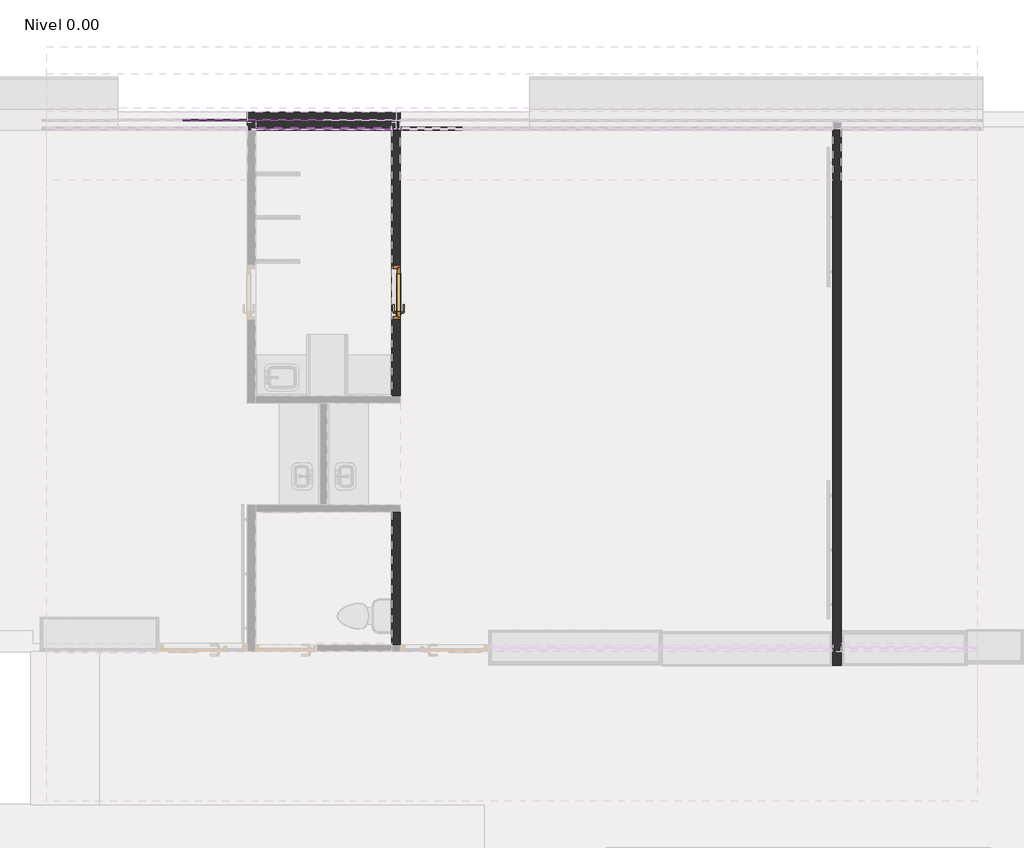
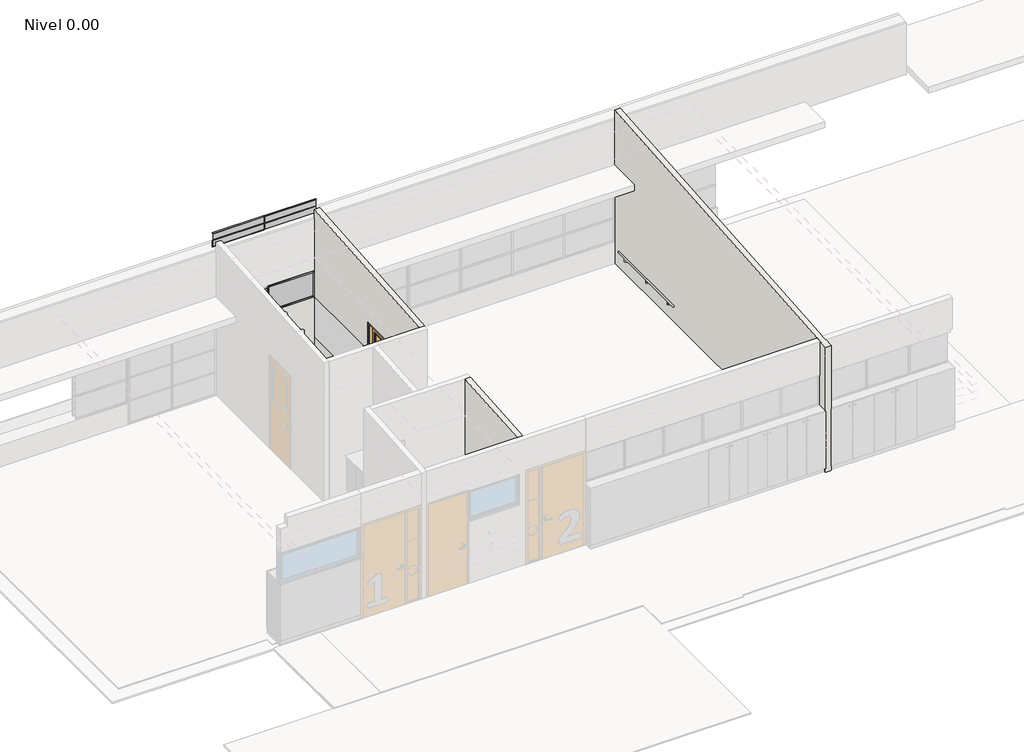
# One storey, part 15 of 27: 78 members, 44 plates, 4 walls, 1 door.
"""IFC4 building model written with IfcOpenShell, lengths in millimetres."""

from ifc_helpers import new_model, si_unit, origin, place, context, project, spatial, faceted_brep, transform, mapped, element, save
from components import puerta_c_01_c01_800x2100mm_3cbcec37, circular_mullion_1dead5a5, circular_mullion_e1cfff8a, l_corner_mullion_bdbcb013, l_corner_mullion_de296168, rectangular_mullion_4771c1cd, rectangular_mullion_62a8ddbd, rectangular_mullion_b27f267a, rectangular_mullion_f4ea7fa0, rectangular_mullion_b22e6fb3, rectangular_mullion_4732226b, rectangular_mullion_bccfeea3, system_panel_21d1b96a, system_panel_b47d8e37, system_panel_7fb71679, system_panel_d60c91ae, system_panel_glazed_caefc472

model = new_model("IFC4")

# Units and contexts
model_context = context("Model", 3, world=origin())
ifc_project = project(units=[si_unit("LENGTHUNIT", "METRE", prefix="MILLI")], contexts=[model_context])

# Site, building, storey
site = spatial("IfcSite", under=ifc_project)
building = spatial("IfcBuilding", under=site)
storey = spatial("IfcBuildingStorey", under=building, Name="Nivel 0.00", Elevation=0.0)

# Door
placement = place(None, origin())
puerta_c_01_c01_800x2100mm_shape = puerta_c_01_c01_800x2100mm_3cbcec37(model_context)
element("IfcDoor", 1, ObjectType="PUERTA_C-01 : C01_800X2100mm", at=placement, inside=storey, context=model_context, shape_type="MappedRepresentation", body=[
    mapped(puerta_c_01_c01_800x2100mm_shape, transform((-7281.9192731, 4429.1682907, 0.0), x_axis=(0.0, 1.0, 0.0), y_axis=(-1.0, 0.0, 0.0), z_axis=(0.0, 0.0, 1.0))),
])

# Members
circular_mullion_shape = circular_mullion_1dead5a5(model_context)
element("IfcMember", 2, ObjectType="Circular Mullion : ARQ_HERR_16mm", at=placement, inside=storey, context=model_context, shape_type="MappedRepresentation", body=[
    mapped(circular_mullion_shape, transform((-8338.404057, 6959.43912, 1650.0), x_axis=(0.0, 0.0, 1.0), y_axis=(0.0, -1.0, 0.0), z_axis=(1.0, 0.0, 0.0))),
])
element("IfcMember", 3, ObjectType="Circular Mullion : ARQ_HERR_16mm", at=placement, inside=storey, context=model_context, shape_type="MappedRepresentation", body=[
    mapped(circular_mullion_shape, transform((-8338.404057, 6959.43912, 1800.0), x_axis=(0.0, 0.0, 1.0), y_axis=(0.0, -1.0, 0.0), z_axis=(1.0, 0.0, 0.0))),
])
element("IfcMember", 4, ObjectType="Circular Mullion : ARQ_HERR_16mm", at=placement, inside=storey, context=model_context, shape_type="MappedRepresentation", body=[
    mapped(circular_mullion_shape, transform((-8338.404057, 6959.43912, 1950.0), x_axis=(0.0, 0.0, 1.0), y_axis=(0.0, -1.0, 0.0), z_axis=(1.0, 0.0, 0.0))),
])
element("IfcMember", 5, ObjectType="Circular Mullion : ARQ_HERR_16mm", at=placement, inside=storey, context=model_context, shape_type="MappedRepresentation", body=[
    mapped(circular_mullion_shape, transform((-8338.404057, 6959.43912, 2100.0), x_axis=(0.0, 0.0, 1.0), y_axis=(0.0, -1.0, 0.0), z_axis=(1.0, 0.0, 0.0))),
])
element("IfcMember", 6, ObjectType="Circular Mullion : ARQ_HERR_16mm", at=placement, inside=storey, context=model_context, shape_type="MappedRepresentation", body=[
    mapped(circular_mullion_shape, transform((-8338.404057, 6959.43912, 2250.0), x_axis=(0.0, 0.0, 1.0), y_axis=(0.0, -1.0, 0.0), z_axis=(1.0, 0.0, 0.0))),
])
element("IfcMember", 7, ObjectType="Circular Mullion : ARQ_HERR_16mm", at=placement, inside=storey, context=model_context, shape_type="MappedRepresentation", body=[
    mapped(circular_mullion_shape, transform((-8338.404057, 6959.43912, 2400.0), x_axis=(0.0, 0.0, 1.0), y_axis=(0.0, -1.0, 0.0), z_axis=(1.0, 0.0, 0.0))),
])
element("IfcMember", 8, ObjectType="Circular Mullion : ARQ_HERR_16mm", at=placement, inside=storey, context=model_context, shape_type="MappedRepresentation", body=[
    mapped(circular_mullion_shape, transform((-8338.404057, 6959.43912, 2550.0), x_axis=(0.0, 0.0, 1.0), y_axis=(0.0, -1.0, 0.0), z_axis=(1.0, 0.0, 0.0))),
])
element("IfcMember", 9, ObjectType="Circular Mullion : ARQ_HERR_16mm", at=placement, inside=storey, context=model_context, shape_type="MappedRepresentation", body=[
    mapped(circular_mullion_shape, transform((-8338.404057, 6959.43912, 2700.0), x_axis=(0.0, 0.0, 1.0), y_axis=(0.0, -1.0, 0.0), z_axis=(1.0, 0.0, 0.0))),
])
element("IfcMember", 10, ObjectType="Circular Mullion : ARQ_HERR_16mm", at=placement, inside=storey, context=model_context, shape_type="MappedRepresentation", body=[
    mapped(circular_mullion_shape, transform((-8338.404057, 6959.43912, 2850.0), x_axis=(0.0, 0.0, 1.0), y_axis=(0.0, -1.0, 0.0), z_axis=(1.0, 0.0, 0.0))),
])
element("IfcMember", 11, ObjectType="Circular Mullion : ARQ_HERR_16mm", at=placement, inside=storey, context=model_context, shape_type="MappedRepresentation", body=[
    mapped(circular_mullion_shape, transform((-8338.404057, 6959.43912, 3000.0), x_axis=(0.0, 0.0, 1.0), y_axis=(0.0, -1.0, 0.0), z_axis=(1.0, 0.0, 0.0))),
])
element("IfcMember", 12, ObjectType="Circular Mullion : ARQ_HERR_16mm", at=placement, inside=storey, context=model_context, shape_type="MappedRepresentation", body=[
    mapped(circular_mullion_shape, transform((-8338.404057, 6959.43912, 3150.0), x_axis=(0.0, 0.0, 1.0), y_axis=(0.0, -1.0, 0.0), z_axis=(1.0, 0.0, 0.0))),
])
element("IfcMember", 13, ObjectType="Circular Mullion : ARQ_HERR_16mm", at=placement, inside=storey, context=model_context, shape_type="MappedRepresentation", body=[
    mapped(circular_mullion_shape, transform((-8338.404057, 6959.43912, 3300.0), x_axis=(0.0, 0.0, 1.0), y_axis=(0.0, -1.0, 0.0), z_axis=(1.0, 0.0, 0.0))),
])
element("IfcMember", 14, ObjectType="Circular Mullion : ARQ_HERR_16mm", at=placement, inside=storey, context=model_context, shape_type="MappedRepresentation", body=[
    mapped(circular_mullion_shape, transform((-8338.404057, 6959.43912, 3450.0), x_axis=(0.0, 0.0, 1.0), y_axis=(0.0, -1.0, 0.0), z_axis=(1.0, 0.0, 0.0))),
])
circular_mullion_2_shape = circular_mullion_e1cfff8a(model_context)
element("IfcMember", 15, ObjectType="Circular Mullion : ARQ_HERR_16mm", at=placement, inside=storey, context=model_context, shape_type="MappedRepresentation", body=[
    mapped(circular_mullion_2_shape, transform((-9461.2388409, 6959.43912, 150.0), x_axis=(0.0, 0.0, 1.0), y_axis=(0.0, -1.0, 0.0), z_axis=(1.0, 0.0, 0.0))),
])
element("IfcMember", 16, ObjectType="Circular Mullion : ARQ_HERR_16mm", at=placement, inside=storey, context=model_context, shape_type="MappedRepresentation", body=[
    mapped(circular_mullion_2_shape, transform((-9461.2388409, 6959.43912, 300.0), x_axis=(0.0, 0.0, 1.0), y_axis=(0.0, -1.0, 0.0), z_axis=(1.0, 0.0, 0.0))),
])
element("IfcMember", 17, ObjectType="Circular Mullion : ARQ_HERR_16mm", at=placement, inside=storey, context=model_context, shape_type="MappedRepresentation", body=[
    mapped(circular_mullion_2_shape, transform((-9461.2388409, 6959.43912, 450.0), x_axis=(0.0, 0.0, 1.0), y_axis=(0.0, -1.0, 0.0), z_axis=(1.0, 0.0, 0.0))),
])
element("IfcMember", 18, ObjectType="Circular Mullion : ARQ_HERR_16mm", at=placement, inside=storey, context=model_context, shape_type="MappedRepresentation", body=[
    mapped(circular_mullion_2_shape, transform((-9461.2388409, 6959.43912, 600.0), x_axis=(0.0, 0.0, 1.0), y_axis=(0.0, -1.0, 0.0), z_axis=(1.0, 0.0, 0.0))),
])
element("IfcMember", 19, ObjectType="Circular Mullion : ARQ_HERR_16mm", at=placement, inside=storey, context=model_context, shape_type="MappedRepresentation", body=[
    mapped(circular_mullion_2_shape, transform((-9461.2388409, 6959.43912, 750.0), x_axis=(0.0, 0.0, 1.0), y_axis=(0.0, -1.0, 0.0), z_axis=(1.0, 0.0, 0.0))),
])
element("IfcMember", 20, ObjectType="Circular Mullion : ARQ_HERR_16mm", at=placement, inside=storey, context=model_context, shape_type="MappedRepresentation", body=[
    mapped(circular_mullion_2_shape, transform((-9461.2388409, 6959.43912, 900.0), x_axis=(0.0, 0.0, 1.0), y_axis=(0.0, -1.0, 0.0), z_axis=(1.0, 0.0, 0.0))),
])
element("IfcMember", 21, ObjectType="Circular Mullion : ARQ_HERR_16mm", at=placement, inside=storey, context=model_context, shape_type="MappedRepresentation", body=[
    mapped(circular_mullion_2_shape, transform((-9461.2388409, 6959.43912, 1050.0), x_axis=(0.0, 0.0, 1.0), y_axis=(0.0, -1.0, 0.0), z_axis=(1.0, 0.0, 0.0))),
])
element("IfcMember", 22, ObjectType="Circular Mullion : ARQ_HERR_16mm", at=placement, inside=storey, context=model_context, shape_type="MappedRepresentation", body=[
    mapped(circular_mullion_2_shape, transform((-9461.2388409, 6959.43912, 1200.0), x_axis=(0.0, 0.0, 1.0), y_axis=(0.0, -1.0, 0.0), z_axis=(1.0, 0.0, 0.0))),
])
element("IfcMember", 23, ObjectType="Circular Mullion : ARQ_HERR_16mm", at=placement, inside=storey, context=model_context, shape_type="MappedRepresentation", body=[
    mapped(circular_mullion_2_shape, transform((-9461.2388409, 6959.43912, 1350.0), x_axis=(0.0, 0.0, 1.0), y_axis=(0.0, -1.0, 0.0), z_axis=(1.0, 0.0, 0.0))),
])
element("IfcMember", 24, ObjectType="Circular Mullion : ARQ_HERR_16mm", at=placement, inside=storey, context=model_context, shape_type="MappedRepresentation", body=[
    mapped(circular_mullion_2_shape, transform((-9461.2388409, 6959.43912, 1500.0), x_axis=(0.0, 0.0, 1.0), y_axis=(0.0, -1.0, 0.0), z_axis=(1.0, 0.0, 0.0))),
])
element("IfcMember", 25, ObjectType="Circular Mullion : ARQ_HERR_16mm", at=placement, inside=storey, context=model_context, shape_type="MappedRepresentation", body=[
    mapped(circular_mullion_2_shape, transform((-9461.2388409, 6959.43912, 1650.0), x_axis=(0.0, 0.0, 1.0), y_axis=(0.0, -1.0, 0.0), z_axis=(1.0, 0.0, 0.0))),
])
element("IfcMember", 26, ObjectType="Circular Mullion : ARQ_HERR_16mm", at=placement, inside=storey, context=model_context, shape_type="MappedRepresentation", body=[
    mapped(circular_mullion_2_shape, transform((-9461.2388409, 6959.43912, 1800.0), x_axis=(0.0, 0.0, 1.0), y_axis=(0.0, -1.0, 0.0), z_axis=(1.0, 0.0, 0.0))),
])
element("IfcMember", 27, ObjectType="Circular Mullion : ARQ_HERR_16mm", at=placement, inside=storey, context=model_context, shape_type="MappedRepresentation", body=[
    mapped(circular_mullion_2_shape, transform((-9461.2388409, 6959.43912, 1950.0), x_axis=(0.0, 0.0, 1.0), y_axis=(0.0, -1.0, 0.0), z_axis=(1.0, 0.0, 0.0))),
])
l_corner_mullion_shape = l_corner_mullion_bdbcb013(model_context)
element("IfcMember", 28, ObjectType="L Corner Mullion : ARQ_HERR_15X6mm", at=placement, inside=storey, context=model_context, shape_type="MappedRepresentation", body=[
    mapped(l_corner_mullion_shape, transform((-7221.5692731, 6959.43912, 3600.0), x_axis=(0.0, 0.0, 1.0), y_axis=(0.0, -1.0, 0.0), z_axis=(1.0, 0.0, 0.0))),
])
element("IfcMember", 29, ObjectType="L Corner Mullion : ARQ_HERR_15X6mm", at=placement, inside=storey, context=model_context, shape_type="MappedRepresentation", body=[
    mapped(l_corner_mullion_shape, transform((-8338.404057, 6959.43912, 3600.0), x_axis=(0.0, 0.0, 1.0), y_axis=(0.0, -1.0, 0.0), z_axis=(1.0, 0.0, 0.0))),
])
element("IfcMember", 30, ObjectType="L Corner Mullion : ARQ_HERR_15X6mm", at=placement, inside=storey, context=model_context, shape_type="MappedRepresentation", body=[
    mapped(l_corner_mullion_shape, transform((-8332.404057, 6959.43912, 1500.0), x_axis=(0.0, 0.0, -1.0), y_axis=(0.0, -1.0, 0.0), z_axis=(-1.0, 0.0, 0.0))),
])
l_corner_mullion_2_shape = l_corner_mullion_de296168(model_context)
element("IfcMember", 31, ObjectType="L Corner Mullion : ARQ_HERR_15X6mm", at=placement, inside=storey, context=model_context, shape_type="MappedRepresentation", body=[
    mapped(l_corner_mullion_2_shape, transform((-9461.2388409, 6959.43912, 2100.0), x_axis=(0.0, 0.0, 1.0), y_axis=(0.0, -1.0, 0.0), z_axis=(1.0, 0.0, 0.0))),
])
rectangular_mullion_shape = rectangular_mullion_4771c1cd(model_context)
element("IfcMember", 32, ObjectType="Rectangular Mullion : ARQ_TV_MULL_50x30mm", at=placement, inside=storey, context=model_context, shape_type="MappedRepresentation", body=[
    mapped(rectangular_mullion_shape, transform((-7185.5692731, 6834.439065, 0.0), x_axis=(0.0, 0.0, -1.0), y_axis=(0.0, -1.0, 0.0), z_axis=(-1.0, 0.0, 0.0))),
])
rectangular_mullion_2_shape = rectangular_mullion_62a8ddbd(model_context)
element("IfcMember", 33, ObjectType="Rectangular Mullion : ARQ_TV_MULL_50x30mm", at=placement, inside=storey, context=model_context, shape_type="MappedRepresentation", body=[
    mapped(rectangular_mullion_2_shape, transform((-7215.5692731, 6834.439065, 2100.0), x_axis=(-1.0, 0.0, 0.0), y_axis=(0.0, -1.0, 0.0), z_axis=(0.0, 0.0, 1.0))),
])
element("IfcMember", 34, ObjectType="Rectangular Mullion : ARQ_TV_MULL_50x30mm", at=placement, inside=storey, context=model_context, shape_type="MappedRepresentation", body=[
    mapped(rectangular_mullion_2_shape, transform((-7215.5692731, 6834.439065, 525.0), x_axis=(-1.0, 0.0, 0.0), y_axis=(0.0, -1.0, 0.0), z_axis=(0.0, 0.0, 1.0))),
])
element("IfcMember", 35, ObjectType="Rectangular Mullion : ARQ_TV_MULL_50x30mm", at=placement, inside=storey, context=model_context, shape_type="MappedRepresentation", body=[
    mapped(rectangular_mullion_2_shape, transform((-7215.5692731, 6834.439065, 1050.0), x_axis=(-1.0, 0.0, 0.0), y_axis=(0.0, -1.0, 0.0), z_axis=(0.0, 0.0, 1.0))),
])
element("IfcMember", 36, ObjectType="Rectangular Mullion : ARQ_TV_MULL_50x30mm", at=placement, inside=storey, context=model_context, shape_type="MappedRepresentation", body=[
    mapped(rectangular_mullion_2_shape, transform((-7215.5692731, 6834.439065, 1575.0), x_axis=(-1.0, 0.0, 0.0), y_axis=(0.0, -1.0, 0.0), z_axis=(0.0, 0.0, 1.0))),
])
rectangular_mullion_3_shape = rectangular_mullion_b27f267a(model_context)
element("IfcMember", 37, ObjectType="Rectangular Mullion : ARQ_TV_MULL_50x30mm", at=placement, inside=storey, context=model_context, shape_type="MappedRepresentation", body=[
    mapped(rectangular_mullion_3_shape, transform((-8335.5692268, 6834.439065, 1500.0), x_axis=(-1.0, 0.0, 0.0), y_axis=(0.0, 1.0, 0.0), z_axis=(0.0, 0.0, -1.0))),
])
rectangular_mullion_4_shape = rectangular_mullion_f4ea7fa0(model_context)
element("IfcMember", 38, ObjectType="Rectangular Mullion : ARQ_TV_MULL_50x30mm", at=placement, inside=storey, context=model_context, shape_type="MappedRepresentation", body=[
    mapped(rectangular_mullion_4_shape, transform((-7335.5692731, 6834.439065, 2100.0), x_axis=(1.0, 0.0, 0.0), y_axis=(0.0, 1.0, 0.0), z_axis=(0.0, 0.0, 1.0))),
])
rectangular_mullion_5_shape = rectangular_mullion_b22e6fb3(model_context)
element("IfcMember", 39, ObjectType="Rectangular Mullion : ARQ_TV_MULL_50x30mm", at=placement, inside=storey, context=model_context, shape_type="MappedRepresentation", body=[
    mapped(rectangular_mullion_5_shape, transform((-8320.5692268, 6834.439065, 2100.0), x_axis=(0.0, 0.0, 1.0), y_axis=(0.0, 1.0, 0.0), z_axis=(-1.0, 0.0, 0.0))),
])
element("IfcMember", 40, ObjectType="Rectangular Mullion : ARQ_TV_MULL_50x30mm", at=placement, inside=storey, context=model_context, shape_type="MappedRepresentation", body=[
    mapped(rectangular_mullion_5_shape, transform((-7365.5692731, 6834.439065, 1500.0), x_axis=(0.0, 0.0, -1.0), y_axis=(0.0, 1.0, 0.0), z_axis=(1.0, 0.0, 0.0))),
])
element("IfcMember", 41, ObjectType="Rectangular Mullion : ARQ_TV_MULL_50x30mm", at=placement, inside=storey, context=model_context, shape_type="MappedRepresentation", body=[
    mapped(rectangular_mullion_5_shape, transform((-8350.5692268, 6834.439065, 1500.0), x_axis=(0.0, 0.0, -1.0), y_axis=(0.0, 1.0, 0.0), z_axis=(1.0, 0.0, 0.0))),
])
rectangular_mullion_6_shape = rectangular_mullion_4732226b(model_context)
element("IfcMember", 42, ObjectType="Rectangular Mullion : ARQ_HERR_15X6mm", at=placement, inside=storey, context=model_context, shape_type="MappedRepresentation", body=[
    mapped(rectangular_mullion_6_shape, transform((-8335.404057, 6959.43912, 1500.0), x_axis=(1.0, 0.0, 0.0), y_axis=(0.0, -1.0, 0.0), z_axis=(0.0, 0.0, -1.0))),
])
element("IfcMember", 43, ObjectType="Rectangular Mullion : ARQ_HERR_15X6mm", at=placement, inside=storey, context=model_context, shape_type="MappedRepresentation", body=[
    mapped(rectangular_mullion_6_shape, transform((-8335.404057, 6959.43912, 1650.0), x_axis=(1.0, 0.0, 0.0), y_axis=(0.0, -1.0, 0.0), z_axis=(0.0, 0.0, -1.0))),
])
element("IfcMember", 44, ObjectType="Rectangular Mullion : ARQ_HERR_15X6mm", at=placement, inside=storey, context=model_context, shape_type="MappedRepresentation", body=[
    mapped(rectangular_mullion_6_shape, transform((-8335.404057, 6959.43912, 1800.0), x_axis=(1.0, 0.0, 0.0), y_axis=(0.0, -1.0, 0.0), z_axis=(0.0, 0.0, -1.0))),
])
element("IfcMember", 45, ObjectType="Rectangular Mullion : ARQ_HERR_15X6mm", at=placement, inside=storey, context=model_context, shape_type="MappedRepresentation", body=[
    mapped(rectangular_mullion_6_shape, transform((-8335.404057, 6959.43912, 1950.0), x_axis=(1.0, 0.0, 0.0), y_axis=(0.0, -1.0, 0.0), z_axis=(0.0, 0.0, -1.0))),
])
element("IfcMember", 46, ObjectType="Rectangular Mullion : ARQ_HERR_15X6mm", at=placement, inside=storey, context=model_context, shape_type="MappedRepresentation", body=[
    mapped(rectangular_mullion_6_shape, transform((-8335.404057, 6959.43912, 2100.0), x_axis=(1.0, 0.0, 0.0), y_axis=(0.0, -1.0, 0.0), z_axis=(0.0, 0.0, -1.0))),
])
element("IfcMember", 47, ObjectType="Rectangular Mullion : ARQ_HERR_15X6mm", at=placement, inside=storey, context=model_context, shape_type="MappedRepresentation", body=[
    mapped(rectangular_mullion_6_shape, transform((-8335.404057, 6959.43912, 2250.0), x_axis=(1.0, 0.0, 0.0), y_axis=(0.0, -1.0, 0.0), z_axis=(0.0, 0.0, -1.0))),
])
element("IfcMember", 48, ObjectType="Rectangular Mullion : ARQ_HERR_15X6mm", at=placement, inside=storey, context=model_context, shape_type="MappedRepresentation", body=[
    mapped(rectangular_mullion_6_shape, transform((-8335.404057, 6959.43912, 2400.0), x_axis=(1.0, 0.0, 0.0), y_axis=(0.0, -1.0, 0.0), z_axis=(0.0, 0.0, -1.0))),
])
element("IfcMember", 49, ObjectType="Rectangular Mullion : ARQ_HERR_15X6mm", at=placement, inside=storey, context=model_context, shape_type="MappedRepresentation", body=[
    mapped(rectangular_mullion_6_shape, transform((-8335.404057, 6959.43912, 2550.0), x_axis=(1.0, 0.0, 0.0), y_axis=(0.0, -1.0, 0.0), z_axis=(0.0, 0.0, -1.0))),
])
element("IfcMember", 50, ObjectType="Rectangular Mullion : ARQ_HERR_15X6mm", at=placement, inside=storey, context=model_context, shape_type="MappedRepresentation", body=[
    mapped(rectangular_mullion_6_shape, transform((-8335.404057, 6959.43912, 2700.0), x_axis=(1.0, 0.0, 0.0), y_axis=(0.0, -1.0, 0.0), z_axis=(0.0, 0.0, -1.0))),
])
element("IfcMember", 51, ObjectType="Rectangular Mullion : ARQ_HERR_15X6mm", at=placement, inside=storey, context=model_context, shape_type="MappedRepresentation", body=[
    mapped(rectangular_mullion_6_shape, transform((-8335.404057, 6959.43912, 2850.0), x_axis=(1.0, 0.0, 0.0), y_axis=(0.0, -1.0, 0.0), z_axis=(0.0, 0.0, -1.0))),
])
element("IfcMember", 52, ObjectType="Rectangular Mullion : ARQ_HERR_15X6mm", at=placement, inside=storey, context=model_context, shape_type="MappedRepresentation", body=[
    mapped(rectangular_mullion_6_shape, transform((-8335.404057, 6959.43912, 3000.0), x_axis=(1.0, 0.0, 0.0), y_axis=(0.0, -1.0, 0.0), z_axis=(0.0, 0.0, -1.0))),
])
element("IfcMember", 53, ObjectType="Rectangular Mullion : ARQ_HERR_15X6mm", at=placement, inside=storey, context=model_context, shape_type="MappedRepresentation", body=[
    mapped(rectangular_mullion_6_shape, transform((-8335.404057, 6959.43912, 3150.0), x_axis=(1.0, 0.0, 0.0), y_axis=(0.0, -1.0, 0.0), z_axis=(0.0, 0.0, -1.0))),
])
element("IfcMember", 54, ObjectType="Rectangular Mullion : ARQ_HERR_15X6mm", at=placement, inside=storey, context=model_context, shape_type="MappedRepresentation", body=[
    mapped(rectangular_mullion_6_shape, transform((-8335.404057, 6959.43912, 3300.0), x_axis=(1.0, 0.0, 0.0), y_axis=(0.0, -1.0, 0.0), z_axis=(0.0, 0.0, -1.0))),
])
rectangular_mullion_7_shape = rectangular_mullion_bccfeea3(model_context)
element("IfcMember", 55, ObjectType="Rectangular Mullion : ARQ_HERR_15X6mm", at=placement, inside=storey, context=model_context, shape_type="MappedRepresentation", body=[
    mapped(rectangular_mullion_7_shape, transform((-7215.5692731, 6959.43912, 1500.0), x_axis=(1.0, 0.0, 0.0), y_axis=(0.0, -1.0, 0.0), z_axis=(0.0, 0.0, -1.0))),
])
element("IfcMember", 56, ObjectType="Rectangular Mullion : ARQ_HERR_15X6mm", at=placement, inside=storey, context=model_context, shape_type="MappedRepresentation", body=[
    mapped(rectangular_mullion_7_shape, transform((-9455.2388409, 6959.43912, 0.0), x_axis=(1.0, 0.0, 0.0), y_axis=(0.0, -1.0, 0.0), z_axis=(0.0, 0.0, -1.0))),
])
element("IfcMember", 57, ObjectType="Rectangular Mullion : ARQ_HERR_15X6mm", at=placement, inside=storey, context=model_context, shape_type="MappedRepresentation", body=[
    mapped(rectangular_mullion_7_shape, transform((-7215.5692731, 6959.43912, 1650.0), x_axis=(1.0, 0.0, 0.0), y_axis=(0.0, -1.0, 0.0), z_axis=(0.0, 0.0, -1.0))),
])
element("IfcMember", 58, ObjectType="Rectangular Mullion : ARQ_HERR_15X6mm", at=placement, inside=storey, context=model_context, shape_type="MappedRepresentation", body=[
    mapped(rectangular_mullion_7_shape, transform((-7215.5692731, 6959.43912, 1800.0), x_axis=(1.0, 0.0, 0.0), y_axis=(0.0, -1.0, 0.0), z_axis=(0.0, 0.0, -1.0))),
])
element("IfcMember", 59, ObjectType="Rectangular Mullion : ARQ_HERR_15X6mm", at=placement, inside=storey, context=model_context, shape_type="MappedRepresentation", body=[
    mapped(rectangular_mullion_7_shape, transform((-7215.5692731, 6959.43912, 1950.0), x_axis=(1.0, 0.0, 0.0), y_axis=(0.0, -1.0, 0.0), z_axis=(0.0, 0.0, -1.0))),
])
element("IfcMember", 60, ObjectType="Rectangular Mullion : ARQ_HERR_15X6mm", at=placement, inside=storey, context=model_context, shape_type="MappedRepresentation", body=[
    mapped(rectangular_mullion_7_shape, transform((-7215.5692731, 6959.43912, 2100.0), x_axis=(1.0, 0.0, 0.0), y_axis=(0.0, -1.0, 0.0), z_axis=(0.0, 0.0, -1.0))),
])
element("IfcMember", 61, ObjectType="Rectangular Mullion : ARQ_HERR_15X6mm", at=placement, inside=storey, context=model_context, shape_type="MappedRepresentation", body=[
    mapped(rectangular_mullion_7_shape, transform((-7215.5692731, 6959.43912, 2250.0), x_axis=(1.0, 0.0, 0.0), y_axis=(0.0, -1.0, 0.0), z_axis=(0.0, 0.0, -1.0))),
])
element("IfcMember", 62, ObjectType="Rectangular Mullion : ARQ_HERR_15X6mm", at=placement, inside=storey, context=model_context, shape_type="MappedRepresentation", body=[
    mapped(rectangular_mullion_7_shape, transform((-7215.5692731, 6959.43912, 2400.0), x_axis=(1.0, 0.0, 0.0), y_axis=(0.0, -1.0, 0.0), z_axis=(0.0, 0.0, -1.0))),
])
element("IfcMember", 63, ObjectType="Rectangular Mullion : ARQ_HERR_15X6mm", at=placement, inside=storey, context=model_context, shape_type="MappedRepresentation", body=[
    mapped(rectangular_mullion_7_shape, transform((-7215.5692731, 6959.43912, 2550.0), x_axis=(1.0, 0.0, 0.0), y_axis=(0.0, -1.0, 0.0), z_axis=(0.0, 0.0, -1.0))),
])
element("IfcMember", 64, ObjectType="Rectangular Mullion : ARQ_HERR_15X6mm", at=placement, inside=storey, context=model_context, shape_type="MappedRepresentation", body=[
    mapped(rectangular_mullion_7_shape, transform((-9455.2388409, 6959.43912, 150.0), x_axis=(1.0, 0.0, 0.0), y_axis=(0.0, -1.0, 0.0), z_axis=(0.0, 0.0, -1.0))),
])
element("IfcMember", 65, ObjectType="Rectangular Mullion : ARQ_HERR_15X6mm", at=placement, inside=storey, context=model_context, shape_type="MappedRepresentation", body=[
    mapped(rectangular_mullion_7_shape, transform((-9455.2388409, 6959.43912, 300.0), x_axis=(1.0, 0.0, 0.0), y_axis=(0.0, -1.0, 0.0), z_axis=(0.0, 0.0, -1.0))),
])
element("IfcMember", 66, ObjectType="Rectangular Mullion : ARQ_HERR_15X6mm", at=placement, inside=storey, context=model_context, shape_type="MappedRepresentation", body=[
    mapped(rectangular_mullion_7_shape, transform((-9455.2388409, 6959.43912, 450.0), x_axis=(1.0, 0.0, 0.0), y_axis=(0.0, -1.0, 0.0), z_axis=(0.0, 0.0, -1.0))),
])
element("IfcMember", 67, ObjectType="Rectangular Mullion : ARQ_HERR_15X6mm", at=placement, inside=storey, context=model_context, shape_type="MappedRepresentation", body=[
    mapped(rectangular_mullion_7_shape, transform((-9455.2388409, 6959.43912, 600.0), x_axis=(1.0, 0.0, 0.0), y_axis=(0.0, -1.0, 0.0), z_axis=(0.0, 0.0, -1.0))),
])
element("IfcMember", 68, ObjectType="Rectangular Mullion : ARQ_HERR_15X6mm", at=placement, inside=storey, context=model_context, shape_type="MappedRepresentation", body=[
    mapped(rectangular_mullion_7_shape, transform((-9455.2388409, 6959.43912, 750.0), x_axis=(1.0, 0.0, 0.0), y_axis=(0.0, -1.0, 0.0), z_axis=(0.0, 0.0, -1.0))),
])
element("IfcMember", 69, ObjectType="Rectangular Mullion : ARQ_HERR_15X6mm", at=placement, inside=storey, context=model_context, shape_type="MappedRepresentation", body=[
    mapped(rectangular_mullion_7_shape, transform((-9455.2388409, 6959.43912, 900.0), x_axis=(1.0, 0.0, 0.0), y_axis=(0.0, -1.0, 0.0), z_axis=(0.0, 0.0, -1.0))),
])
element("IfcMember", 70, ObjectType="Rectangular Mullion : ARQ_HERR_15X6mm", at=placement, inside=storey, context=model_context, shape_type="MappedRepresentation", body=[
    mapped(rectangular_mullion_7_shape, transform((-9455.2388409, 6959.43912, 1050.0), x_axis=(1.0, 0.0, 0.0), y_axis=(0.0, -1.0, 0.0), z_axis=(0.0, 0.0, -1.0))),
])
element("IfcMember", 71, ObjectType="Rectangular Mullion : ARQ_HERR_15X6mm", at=placement, inside=storey, context=model_context, shape_type="MappedRepresentation", body=[
    mapped(rectangular_mullion_7_shape, transform((-9455.2388409, 6959.43912, 1200.0), x_axis=(1.0, 0.0, 0.0), y_axis=(0.0, -1.0, 0.0), z_axis=(0.0, 0.0, -1.0))),
])
element("IfcMember", 72, ObjectType="Rectangular Mullion : ARQ_HERR_15X6mm", at=placement, inside=storey, context=model_context, shape_type="MappedRepresentation", body=[
    mapped(rectangular_mullion_7_shape, transform((-9455.2388409, 6959.43912, 1350.0), x_axis=(1.0, 0.0, 0.0), y_axis=(0.0, -1.0, 0.0), z_axis=(0.0, 0.0, -1.0))),
])
element("IfcMember", 73, ObjectType="Rectangular Mullion : ARQ_HERR_15X6mm", at=placement, inside=storey, context=model_context, shape_type="MappedRepresentation", body=[
    mapped(rectangular_mullion_7_shape, transform((-9455.2388409, 6959.43912, 1500.0), x_axis=(1.0, 0.0, 0.0), y_axis=(0.0, -1.0, 0.0), z_axis=(0.0, 0.0, -1.0))),
])
element("IfcMember", 74, ObjectType="Rectangular Mullion : ARQ_HERR_15X6mm", at=placement, inside=storey, context=model_context, shape_type="MappedRepresentation", body=[
    mapped(rectangular_mullion_7_shape, transform((-9455.2388409, 6959.43912, 1650.0), x_axis=(1.0, 0.0, 0.0), y_axis=(0.0, -1.0, 0.0), z_axis=(0.0, 0.0, -1.0))),
])
element("IfcMember", 75, ObjectType="Rectangular Mullion : ARQ_HERR_15X6mm", at=placement, inside=storey, context=model_context, shape_type="MappedRepresentation", body=[
    mapped(rectangular_mullion_7_shape, transform((-9455.2388409, 6959.43912, 1800.0), x_axis=(1.0, 0.0, 0.0), y_axis=(0.0, -1.0, 0.0), z_axis=(0.0, 0.0, -1.0))),
])
element("IfcMember", 76, ObjectType="Rectangular Mullion : ARQ_HERR_15X6mm", at=placement, inside=storey, context=model_context, shape_type="MappedRepresentation", body=[
    mapped(rectangular_mullion_7_shape, transform((-9455.2388409, 6959.43912, 3300.0), x_axis=(-1.0, 0.0, 0.0), y_axis=(0.0, -1.0, 0.0), z_axis=(0.0, 0.0, 1.0))),
])
element("IfcMember", 77, ObjectType="Rectangular Mullion : ARQ_HERR_15X6mm", at=placement, inside=storey, context=model_context, shape_type="MappedRepresentation", body=[
    mapped(rectangular_mullion_7_shape, transform((-9455.2388409, 6959.43912, 3450.0), x_axis=(-1.0, 0.0, 0.0), y_axis=(0.0, -1.0, 0.0), z_axis=(0.0, 0.0, 1.0))),
])
element("IfcMember", 78, ObjectType="Rectangular Mullion : ARQ_HERR_15X6mm", at=placement, inside=storey, context=model_context, shape_type="MappedRepresentation", body=[
    mapped(rectangular_mullion_6_shape, transform((-8335.404057, 6959.43912, 3450.0), x_axis=(1.0, 0.0, 0.0), y_axis=(0.0, -1.0, 0.0), z_axis=(0.0, 0.0, -1.0))),
])
element("IfcMember", 79, ObjectType="Rectangular Mullion : ARQ_HERR_15X6mm", at=placement, inside=storey, context=model_context, shape_type="MappedRepresentation", body=[
    mapped(rectangular_mullion_7_shape, transform((-9455.2388409, 6959.43912, 1950.0), x_axis=(1.0, 0.0, 0.0), y_axis=(0.0, -1.0, 0.0), z_axis=(0.0, 0.0, -1.0))),
])

# Plates
system_panel_shape = system_panel_21d1b96a(model_context)
element("IfcPlate", 80, ObjectType="System Panel : VACÍO", at=placement, inside=storey, context=model_context, shape_type="MappedRepresentation", body=[
    mapped(system_panel_shape, transform((-8893.8214489, 6959.43912, 1506.0), x_axis=(1.0, 0.0, 0.0), y_axis=(0.0, 1.0, 0.0), z_axis=(0.0, 0.0, 1.0))),
])
element("IfcPlate", 81, ObjectType="System Panel : VACÍO", at=placement, inside=storey, context=model_context, shape_type="MappedRepresentation", body=[
    mapped(system_panel_shape, transform((-7776.986665, 6959.43912, 1506.0), x_axis=(1.0, 0.0, 0.0), y_axis=(0.0, 1.0, 0.0), z_axis=(0.0, 0.0, 1.0))),
])
element("IfcPlate", 82, ObjectType="System Panel : VACÍO", at=placement, inside=storey, context=model_context, shape_type="MappedRepresentation", body=[
    mapped(system_panel_shape, transform((-8893.8214489, 6959.43912, 3458.0), x_axis=(1.0, 0.0, 0.0), y_axis=(0.0, 1.0, 0.0), z_axis=(0.0, 0.0, 1.0))),
])
element("IfcPlate", 83, ObjectType="System Panel : VACÍO", at=placement, inside=storey, context=model_context, shape_type="MappedRepresentation", body=[
    mapped(system_panel_shape, transform((-7776.986665, 6959.43912, 3458.0), x_axis=(1.0, 0.0, 0.0), y_axis=(0.0, 1.0, 0.0), z_axis=(0.0, 0.0, 1.0))),
])
system_panel_2_shape = system_panel_b47d8e37(model_context)
element("IfcPlate", 84, ObjectType="System Panel : VACÍO", at=placement, inside=storey, context=model_context, shape_type="MappedRepresentation", body=[
    mapped(system_panel_2_shape, transform((-8893.8214489, 6959.43912, 1658.0), x_axis=(1.0, 0.0, 0.0), y_axis=(0.0, 1.0, 0.0), z_axis=(0.0, 0.0, 1.0))),
])
element("IfcPlate", 85, ObjectType="System Panel : VACÍO", at=placement, inside=storey, context=model_context, shape_type="MappedRepresentation", body=[
    mapped(system_panel_2_shape, transform((-7776.986665, 6959.43912, 1658.0), x_axis=(1.0, 0.0, 0.0), y_axis=(0.0, 1.0, 0.0), z_axis=(0.0, 0.0, 1.0))),
])
element("IfcPlate", 86, ObjectType="System Panel : VACÍO", at=placement, inside=storey, context=model_context, shape_type="MappedRepresentation", body=[
    mapped(system_panel_2_shape, transform((-8893.8214489, 6959.43912, 1808.0), x_axis=(1.0, 0.0, 0.0), y_axis=(0.0, 1.0, 0.0), z_axis=(0.0, 0.0, 1.0))),
])
element("IfcPlate", 87, ObjectType="System Panel : VACÍO", at=placement, inside=storey, context=model_context, shape_type="MappedRepresentation", body=[
    mapped(system_panel_2_shape, transform((-7776.986665, 6959.43912, 1808.0), x_axis=(1.0, 0.0, 0.0), y_axis=(0.0, 1.0, 0.0), z_axis=(0.0, 0.0, 1.0))),
])
element("IfcPlate", 88, ObjectType="System Panel : VACÍO", at=placement, inside=storey, context=model_context, shape_type="MappedRepresentation", body=[
    mapped(system_panel_2_shape, transform((-8893.8214489, 6959.43912, 1958.0), x_axis=(1.0, 0.0, 0.0), y_axis=(0.0, 1.0, 0.0), z_axis=(0.0, 0.0, 1.0))),
])
element("IfcPlate", 89, ObjectType="System Panel : VACÍO", at=placement, inside=storey, context=model_context, shape_type="MappedRepresentation", body=[
    mapped(system_panel_2_shape, transform((-7776.986665, 6959.43912, 1958.0), x_axis=(1.0, 0.0, 0.0), y_axis=(0.0, 1.0, 0.0), z_axis=(0.0, 0.0, 1.0))),
])
element("IfcPlate", 90, ObjectType="System Panel : VACÍO", at=placement, inside=storey, context=model_context, shape_type="MappedRepresentation", body=[
    mapped(system_panel_2_shape, transform((-8893.8214489, 6959.43912, 2108.0), x_axis=(1.0, 0.0, 0.0), y_axis=(0.0, 1.0, 0.0), z_axis=(0.0, 0.0, 1.0))),
])
element("IfcPlate", 91, ObjectType="System Panel : VACÍO", at=placement, inside=storey, context=model_context, shape_type="MappedRepresentation", body=[
    mapped(system_panel_2_shape, transform((-7776.986665, 6959.43912, 2108.0), x_axis=(1.0, 0.0, 0.0), y_axis=(0.0, 1.0, 0.0), z_axis=(0.0, 0.0, 1.0))),
])
element("IfcPlate", 92, ObjectType="System Panel : VACÍO", at=placement, inside=storey, context=model_context, shape_type="MappedRepresentation", body=[
    mapped(system_panel_2_shape, transform((-8893.8214489, 6959.43912, 2258.0), x_axis=(1.0, 0.0, 0.0), y_axis=(0.0, 1.0, 0.0), z_axis=(0.0, 0.0, 1.0))),
])
element("IfcPlate", 93, ObjectType="System Panel : VACÍO", at=placement, inside=storey, context=model_context, shape_type="MappedRepresentation", body=[
    mapped(system_panel_2_shape, transform((-7776.986665, 6959.43912, 2258.0), x_axis=(1.0, 0.0, 0.0), y_axis=(0.0, 1.0, 0.0), z_axis=(0.0, 0.0, 1.0))),
])
element("IfcPlate", 94, ObjectType="System Panel : VACÍO", at=placement, inside=storey, context=model_context, shape_type="MappedRepresentation", body=[
    mapped(system_panel_2_shape, transform((-8893.8214489, 6959.43912, 2408.0), x_axis=(1.0, 0.0, 0.0), y_axis=(0.0, 1.0, 0.0), z_axis=(0.0, 0.0, 1.0))),
])
element("IfcPlate", 95, ObjectType="System Panel : VACÍO", at=placement, inside=storey, context=model_context, shape_type="MappedRepresentation", body=[
    mapped(system_panel_2_shape, transform((-7776.986665, 6959.43912, 2408.0), x_axis=(1.0, 0.0, 0.0), y_axis=(0.0, 1.0, 0.0), z_axis=(0.0, 0.0, 1.0))),
])
element("IfcPlate", 96, ObjectType="System Panel : VACÍO", at=placement, inside=storey, context=model_context, shape_type="MappedRepresentation", body=[
    mapped(system_panel_2_shape, transform((-8893.8214489, 6959.43912, 2558.0), x_axis=(1.0, 0.0, 0.0), y_axis=(0.0, 1.0, 0.0), z_axis=(0.0, 0.0, 1.0))),
])
element("IfcPlate", 97, ObjectType="System Panel : VACÍO", at=placement, inside=storey, context=model_context, shape_type="MappedRepresentation", body=[
    mapped(system_panel_2_shape, transform((-7776.986665, 6959.43912, 2558.0), x_axis=(1.0, 0.0, 0.0), y_axis=(0.0, 1.0, 0.0), z_axis=(0.0, 0.0, 1.0))),
])
element("IfcPlate", 98, ObjectType="System Panel : VACÍO", at=placement, inside=storey, context=model_context, shape_type="MappedRepresentation", body=[
    mapped(system_panel_2_shape, transform((-8893.8214489, 6959.43912, 2708.0), x_axis=(1.0, 0.0, 0.0), y_axis=(0.0, 1.0, 0.0), z_axis=(0.0, 0.0, 1.0))),
])
element("IfcPlate", 99, ObjectType="System Panel : VACÍO", at=placement, inside=storey, context=model_context, shape_type="MappedRepresentation", body=[
    mapped(system_panel_2_shape, transform((-7776.986665, 6959.43912, 2708.0), x_axis=(1.0, 0.0, 0.0), y_axis=(0.0, 1.0, 0.0), z_axis=(0.0, 0.0, 1.0))),
])
element("IfcPlate", 100, ObjectType="System Panel : VACÍO", at=placement, inside=storey, context=model_context, shape_type="MappedRepresentation", body=[
    mapped(system_panel_2_shape, transform((-8893.8214489, 6959.43912, 2858.0), x_axis=(1.0, 0.0, 0.0), y_axis=(0.0, 1.0, 0.0), z_axis=(0.0, 0.0, 1.0))),
])
element("IfcPlate", 101, ObjectType="System Panel : VACÍO", at=placement, inside=storey, context=model_context, shape_type="MappedRepresentation", body=[
    mapped(system_panel_2_shape, transform((-7776.986665, 6959.43912, 2858.0), x_axis=(1.0, 0.0, 0.0), y_axis=(0.0, 1.0, 0.0), z_axis=(0.0, 0.0, 1.0))),
])
element("IfcPlate", 102, ObjectType="System Panel : VACÍO", at=placement, inside=storey, context=model_context, shape_type="MappedRepresentation", body=[
    mapped(system_panel_2_shape, transform((-8893.8214489, 6959.43912, 3008.0), x_axis=(1.0, 0.0, 0.0), y_axis=(0.0, 1.0, 0.0), z_axis=(0.0, 0.0, 1.0))),
])
element("IfcPlate", 103, ObjectType="System Panel : VACÍO", at=placement, inside=storey, context=model_context, shape_type="MappedRepresentation", body=[
    mapped(system_panel_2_shape, transform((-7776.986665, 6959.43912, 3008.0), x_axis=(1.0, 0.0, 0.0), y_axis=(0.0, 1.0, 0.0), z_axis=(0.0, 0.0, 1.0))),
])
element("IfcPlate", 104, ObjectType="System Panel : VACÍO", at=placement, inside=storey, context=model_context, shape_type="MappedRepresentation", body=[
    mapped(system_panel_2_shape, transform((-8893.8214489, 6959.43912, 3158.0), x_axis=(1.0, 0.0, 0.0), y_axis=(0.0, 1.0, 0.0), z_axis=(0.0, 0.0, 1.0))),
])
element("IfcPlate", 105, ObjectType="System Panel : VACÍO", at=placement, inside=storey, context=model_context, shape_type="MappedRepresentation", body=[
    mapped(system_panel_2_shape, transform((-7776.986665, 6959.43912, 3158.0), x_axis=(1.0, 0.0, 0.0), y_axis=(0.0, 1.0, 0.0), z_axis=(0.0, 0.0, 1.0))),
])
element("IfcPlate", 106, ObjectType="System Panel : VACÍO", at=placement, inside=storey, context=model_context, shape_type="MappedRepresentation", body=[
    mapped(system_panel_2_shape, transform((-8893.8214489, 6959.43912, 3308.0), x_axis=(1.0, 0.0, 0.0), y_axis=(0.0, 1.0, 0.0), z_axis=(0.0, 0.0, 1.0))),
])
element("IfcPlate", 107, ObjectType="System Panel : VACÍO", at=placement, inside=storey, context=model_context, shape_type="MappedRepresentation", body=[
    mapped(system_panel_2_shape, transform((-7776.986665, 6959.43912, 3308.0), x_axis=(1.0, 0.0, 0.0), y_axis=(0.0, 1.0, 0.0), z_axis=(0.0, 0.0, 1.0))),
])
system_panel_3_shape = system_panel_7fb71679(model_context)
element("IfcPlate", 108, ObjectType="System Panel : VACÍO", at=placement, inside=storey, context=model_context, shape_type="MappedRepresentation", body=[
    mapped(system_panel_3_shape, transform((-9931.7167559, 6959.43912, 6.0), x_axis=(1.0, 0.0, 0.0), y_axis=(0.0, 1.0, 0.0), z_axis=(0.0, 0.0, 1.0))),
])
element("IfcPlate", 109, ObjectType="System Panel : VACÍO", at=placement, inside=storey, context=model_context, shape_type="MappedRepresentation", body=[
    mapped(system_panel_3_shape, transform((-9931.7167559, 6959.43912, 1958.0), x_axis=(1.0, 0.0, 0.0), y_axis=(0.0, 1.0, 0.0), z_axis=(0.0, 0.0, 1.0))),
])
system_panel_4_shape = system_panel_d60c91ae(model_context)
element("IfcPlate", 110, ObjectType="System Panel : VACÍO", at=placement, inside=storey, context=model_context, shape_type="MappedRepresentation", body=[
    mapped(system_panel_4_shape, transform((-9931.7167559, 6959.43912, 158.0), x_axis=(1.0, 0.0, 0.0), y_axis=(0.0, 1.0, 0.0), z_axis=(0.0, 0.0, 1.0))),
])
element("IfcPlate", 111, ObjectType="System Panel : VACÍO", at=placement, inside=storey, context=model_context, shape_type="MappedRepresentation", body=[
    mapped(system_panel_4_shape, transform((-9931.7167559, 6959.43912, 308.0), x_axis=(1.0, 0.0, 0.0), y_axis=(0.0, 1.0, 0.0), z_axis=(0.0, 0.0, 1.0))),
])
element("IfcPlate", 112, ObjectType="System Panel : VACÍO", at=placement, inside=storey, context=model_context, shape_type="MappedRepresentation", body=[
    mapped(system_panel_4_shape, transform((-9931.7167559, 6959.43912, 458.0), x_axis=(1.0, 0.0, 0.0), y_axis=(0.0, 1.0, 0.0), z_axis=(0.0, 0.0, 1.0))),
])
element("IfcPlate", 113, ObjectType="System Panel : VACÍO", at=placement, inside=storey, context=model_context, shape_type="MappedRepresentation", body=[
    mapped(system_panel_4_shape, transform((-9931.7167559, 6959.43912, 608.0), x_axis=(1.0, 0.0, 0.0), y_axis=(0.0, 1.0, 0.0), z_axis=(0.0, 0.0, 1.0))),
])
element("IfcPlate", 114, ObjectType="System Panel : VACÍO", at=placement, inside=storey, context=model_context, shape_type="MappedRepresentation", body=[
    mapped(system_panel_4_shape, transform((-9931.7167559, 6959.43912, 758.0), x_axis=(1.0, 0.0, 0.0), y_axis=(0.0, 1.0, 0.0), z_axis=(0.0, 0.0, 1.0))),
])
element("IfcPlate", 115, ObjectType="System Panel : VACÍO", at=placement, inside=storey, context=model_context, shape_type="MappedRepresentation", body=[
    mapped(system_panel_4_shape, transform((-9931.7167559, 6959.43912, 908.0), x_axis=(1.0, 0.0, 0.0), y_axis=(0.0, 1.0, 0.0), z_axis=(0.0, 0.0, 1.0))),
])
element("IfcPlate", 116, ObjectType="System Panel : VACÍO", at=placement, inside=storey, context=model_context, shape_type="MappedRepresentation", body=[
    mapped(system_panel_4_shape, transform((-9931.7167559, 6959.43912, 1058.0), x_axis=(1.0, 0.0, 0.0), y_axis=(0.0, 1.0, 0.0), z_axis=(0.0, 0.0, 1.0))),
])
element("IfcPlate", 117, ObjectType="System Panel : VACÍO", at=placement, inside=storey, context=model_context, shape_type="MappedRepresentation", body=[
    mapped(system_panel_4_shape, transform((-9931.7167559, 6959.43912, 1208.0), x_axis=(1.0, 0.0, 0.0), y_axis=(0.0, 1.0, 0.0), z_axis=(0.0, 0.0, 1.0))),
])
element("IfcPlate", 118, ObjectType="System Panel : VACÍO", at=placement, inside=storey, context=model_context, shape_type="MappedRepresentation", body=[
    mapped(system_panel_4_shape, transform((-9931.7167559, 6959.43912, 1358.0), x_axis=(1.0, 0.0, 0.0), y_axis=(0.0, 1.0, 0.0), z_axis=(0.0, 0.0, 1.0))),
])
element("IfcPlate", 119, ObjectType="System Panel : VACÍO", at=placement, inside=storey, context=model_context, shape_type="MappedRepresentation", body=[
    mapped(system_panel_4_shape, transform((-9931.7167559, 6959.43912, 1508.0), x_axis=(1.0, 0.0, 0.0), y_axis=(0.0, 1.0, 0.0), z_axis=(0.0, 0.0, 1.0))),
])
element("IfcPlate", 120, ObjectType="System Panel : VACÍO", at=placement, inside=storey, context=model_context, shape_type="MappedRepresentation", body=[
    mapped(system_panel_4_shape, transform((-9931.7167559, 6959.43912, 1658.0), x_axis=(1.0, 0.0, 0.0), y_axis=(0.0, 1.0, 0.0), z_axis=(0.0, 0.0, 1.0))),
])
element("IfcPlate", 121, ObjectType="System Panel : VACÍO", at=placement, inside=storey, context=model_context, shape_type="MappedRepresentation", body=[
    mapped(system_panel_4_shape, transform((-9931.7167559, 6959.43912, 1808.0), x_axis=(1.0, 0.0, 0.0), y_axis=(0.0, 1.0, 0.0), z_axis=(0.0, 0.0, 1.0))),
])
system_panel_glazed_shape = system_panel_glazed_caefc472(model_context)
element("IfcPlate", 122, ObjectType="System Panel : Glazed", at=placement, inside=storey, context=model_context, shape_type="MappedRepresentation", body=[
    mapped(system_panel_glazed_shape, transform((-7843.0692499, 6834.439065, 1530.0), x_axis=(-1.0, 0.0, 0.0), y_axis=(0.0, -1.0, 0.0), z_axis=(0.0, 0.0, 1.0))),
])
element("IfcPlate", 123, ObjectType="System Panel : Glazed", at=placement, inside=storey, context=model_context, shape_type="MappedRepresentation", body=[
    mapped(system_panel_glazed_shape, transform((-8828.0692036, 6834.439065, 1530.0), x_axis=(-1.0, 0.0, 0.0), y_axis=(0.0, -1.0, 0.0), z_axis=(0.0, 0.0, 1.0))),
])

# Walls
element("IfcWall", 124, ObjectType="ARQ_MUR_M01A_ROJO_270mm", at=placement, inside=storey, context=model_context, shape_type="Brep", body=[
    faceted_brep([(-9455.2388409, 6809.439065, -50.0), (-7215.2388409, 6809.439065, -50.0), (-7215.2388409, 6809.439065, 0.0), (-7215.5692731, 6809.439065, 0.0), (-7215.5692731, 6809.439065, 1500.0), (-9335.5691805, 6809.439065, 1500.0), (-9455.2388409, 6809.439065, 1500.0), (-7215.2388409, 7079.439065, -50.0), (-9455.2388409, 7079.439065, -50.0), (-9455.2388409, 7079.439065, 1500.0), (-7215.5692731, 7079.439065, 1500.0), (-7215.5692731, 7079.439065, 0.0), (-7215.2388409, 7079.439065, 0.0), (-7215.5692731, 6824.4390418, 1500.0), (-7215.5692731, 6929.439065, 1500.0)], [[[0, 1, 2, 3, 4, 5, 6]], [[7, 8, 9, 10, 11, 12]], [[1, 0, 8, 7]], [[1, 7, 12, 2]], [[9, 6, 5, 4, 13, 14, 10]], [[0, 6, 9, 8]], [[3, 11, 10, 14, 13, 4]], [[11, 3, 2, 12]]]),
])
element("IfcWall", 125, ObjectType="ARQ_TAB_T02_120mm", at=placement, inside=storey, context=model_context, shape_type="Brep", body=[
    faceted_brep([(-7215.5692731, 2909.3952268, -20.0), (-7215.5692731, 6824.4390418, -20.0), (-7215.5692731, 6824.4390418, 1500.0), (-7215.5692731, 6824.4390418, 2100.0), (-7215.5692731, 6824.4390418, 3484.3877481), (-7215.5692731, 2909.3952268, 3169.2038944), (-7215.5692731, 4829.1682907, 2130.0), (-7215.5692731, 4829.1682907, 0.0), (-7215.5692731, 4029.1682907, 0.0), (-7215.5692731, 4029.1682907, 2130.0), (-7335.5692731, 6824.4390418, -20.0), (-7335.5692731, 2909.3952268, -20.0), (-7335.5692731, 2909.3952268, 3169.2038944), (-7335.5692731, 6824.4390418, 3484.3877481), (-7335.5692731, 6824.4390418, 2100.0), (-7335.5692731, 6824.4390418, 1500.0), (-7335.5692731, 4829.1682907, 0.0), (-7335.5692731, 4829.1682907, 2130.0), (-7335.5692731, 4029.1682907, 2130.0), (-7335.5692731, 4029.1682907, 0.0)], [[[0, 1, 2, 3, 4, 5], [6, 7, 8, 9]], [[10, 11, 12, 13, 14, 15], [16, 17, 18, 19]], [[1, 0, 11, 10]], [[0, 5, 12, 11]], [[4, 3, 2, 1, 10, 15, 14, 13]], [[16, 7, 6, 17]], [[17, 6, 9, 18]], [[18, 9, 8, 19]], [[7, 16, 19, 8]], [[5, 4, 13, 12]]]),
])
element("IfcWall", 126, ObjectType="ARQ_TAB_T02b_120mm", at=placement, inside=storey, context=model_context, shape_type="Brep", body=[
    faceted_brep([(-7335.5692854, 1209.3953137, -20.0), (-7335.5692854, -740.6078399, -20.0), (-7335.5692854, -740.6078399, 1400.0), (-7335.5692854, -740.6078399, 2100.0), (-7335.5692854, -740.6078399, 2875.3573662), (-7335.5692854, 1209.3953137, 3032.3439895), (-7215.5692854, 1209.3953137, -20.0), (-7215.5692854, 1209.3953137, 3032.3439895), (-7215.5692854, -740.6078399, 2875.3573662), (-7215.5692854, -740.6078399, 2150.0), (-7215.5692854, -740.6078399, 0.0), (-7215.5692854, -740.6078399, -20.0)], [[[0, 1, 2, 3, 4, 5]], [[6, 7, 8, 9, 10, 11]], [[1, 0, 6, 11]], [[0, 5, 7, 6]], [[4, 3, 2, 1, 11, 10, 9, 8]], [[5, 4, 8, 7]]]),
])
element("IfcWall", 127, ObjectType="ARQ_TAB_T04_120mm", at=placement, inside=storey, context=model_context, shape_type="Brep", body=[
    faceted_brep([(-745.5693128, -1040.618407, -20.0), (-745.5693128, 6809.4278548, -20.0), (-745.5693128, 6809.4278548, 500.0), (-745.5693128, 6809.4278548, 2100.0), (-745.5693128, 6824.4390418, 2100.0), (-745.5693128, 6824.4390418, 3484.3877481), (-745.5693128, -720.6047653, 2876.9677303), (-745.5693128, -840.6047653, 2867.3070306), (-745.5693128, -1040.618407, 2851.2047663), (-865.5693128, -1040.618407, -20.0), (-865.5693128, -1040.618407, 2851.2047663), (-865.5693128, -840.6078399, 2867.3067831), (-865.5693128, -740.6078399, 2875.3573662), (-865.5693128, 6824.4390418, 3484.3877481), (-865.5693128, 6824.4390418, 2100.0), (-865.5693128, 6809.4278548, 2100.0), (-865.5693128, 6809.4278548, 500.0), (-865.5693128, 6809.4278548, -20.0)], [[[0, 1, 2, 3, 4, 5, 6, 7, 8]], [[9, 10, 11, 12, 13, 14, 15, 16, 17]], [[1, 0, 9, 17]], [[0, 8, 10, 9]], [[8, 7, 6, 5, 13, 12, 11, 10]], [[14, 4, 3, 15]], [[3, 2, 1, 17, 16, 15]], [[5, 4, 14, 13]]]),
])

save(model, "model.ifc")
